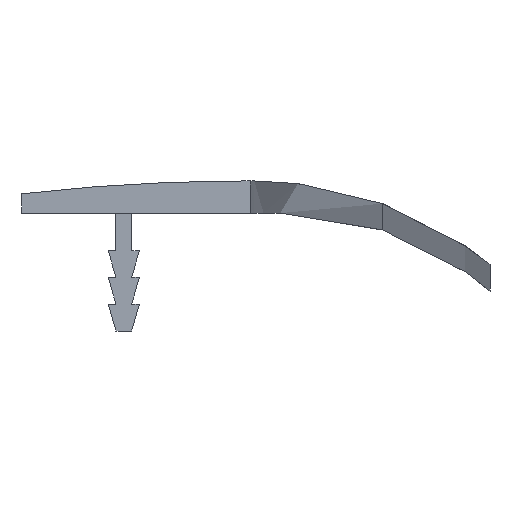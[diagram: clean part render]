
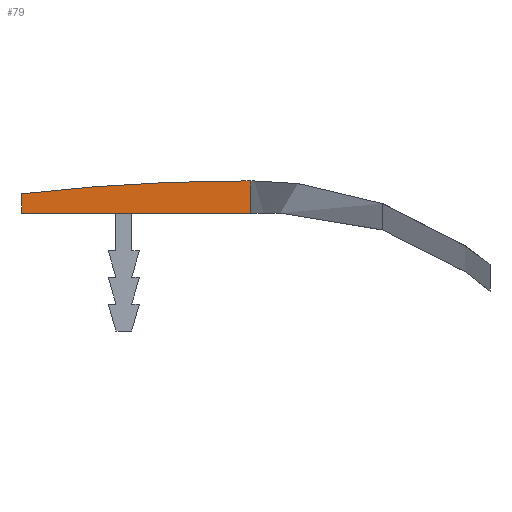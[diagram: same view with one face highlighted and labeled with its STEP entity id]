
A CAD part, left-side view. The second image highlights one B-rep face of the part: STEP entity #79.
In plain terms, the highlighted planar face has unit normal (-1, 0, 0).
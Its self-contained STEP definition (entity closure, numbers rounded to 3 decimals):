
#79 = ADVANCED_FACE( '', ( #174 ), #175, .F. );
#174 = FACE_OUTER_BOUND( '', #285, .T. );
#175 = PLANE( '', #286 );
#285 = EDGE_LOOP( '', ( #384, #385, #386, #387, #388 ) );
#286 = AXIS2_PLACEMENT_3D( '', #389, #390, #391 );
#384 = ORIENTED_EDGE( '', *, *, #687, .F. );
#385 = ORIENTED_EDGE( '', *, *, #688, .F. );
#386 = ORIENTED_EDGE( '', *, *, #689, .F. );
#387 = ORIENTED_EDGE( '', *, *, #690, .F. );
#388 = ORIENTED_EDGE( '', *, *, #691, .F. );
#389 = CARTESIAN_POINT( '', ( -397.5, -12.17, -32.05 ) );
#390 = DIRECTION( '', ( 1., 0., 0. ) );
#391 = DIRECTION( '', ( 0., 0., -1. ) );
#687 = EDGE_CURVE( '', #806, #807, #808, .T. );
#688 = EDGE_CURVE( '', #809, #806, #810, .T. );
#689 = EDGE_CURVE( '', #811, #809, #812, .T. );
#690 = EDGE_CURVE( '', #813, #811, #814, .T. );
#691 = EDGE_CURVE( '', #807, #813, #815, .T. );
#806 = VERTEX_POINT( '', #983 );
#807 = VERTEX_POINT( '', #984 );
#808 = LINE( '', #985, #986 );
#809 = VERTEX_POINT( '', #987 );
#810 = LINE( '', #988, #989 );
#811 = VERTEX_POINT( '', #990 );
#812 = CIRCLE( '', #991, 176.85 );
#813 = VERTEX_POINT( '', #992 );
#814 = LINE( '', #993, #994 );
#815 = LINE( '', #995, #996 );
#983 = CARTESIAN_POINT( '', ( -397.5, -11.8, 3. ) );
#984 = CARTESIAN_POINT( '', ( -397.5, -11.8, 0. ) );
#985 = CARTESIAN_POINT( '', ( -397.5, -11.8, -32.05 ) );
#986 = VECTOR( '', #1308, 1000. );
#987 = CARTESIAN_POINT( '', ( -397.5, -11., 3. ) );
#988 = CARTESIAN_POINT( '', ( -397.5, -11., 3. ) );
#989 = VECTOR( '', #1309, 1000. );
#990 = CARTESIAN_POINT( '', ( -397.5, 9.5, 1.808 ) );
#991 = AXIS2_PLACEMENT_3D( '', #1310, #1311, #1312 );
#992 = CARTESIAN_POINT( '', ( -397.5, 9.5, 0. ) );
#993 = CARTESIAN_POINT( '', ( -397.5, 9.5, 0. ) );
#994 = VECTOR( '', #1313, 1000. );
#995 = CARTESIAN_POINT( '', ( -397.5, -14.59, 0. ) );
#996 = VECTOR( '', #1314, 1000. );
#1308 = DIRECTION( '', ( 0., 0., -1. ) );
#1309 = DIRECTION( '', ( 0., -1., 0. ) );
#1310 = CARTESIAN_POINT( '', ( -397.5, -11., -173.85 ) );
#1311 = DIRECTION( '', ( 1., 0., 0. ) );
#1312 = DIRECTION( '', ( 0., 0., -1. ) );
#1313 = DIRECTION( '', ( 0., 0., 1. ) );
#1314 = DIRECTION( '', ( 0., 1., 0. ) );
